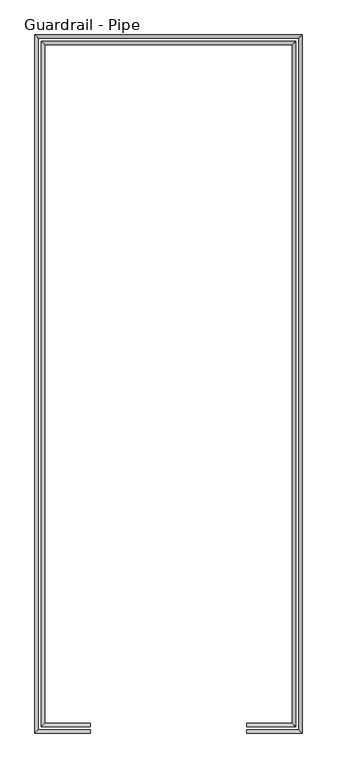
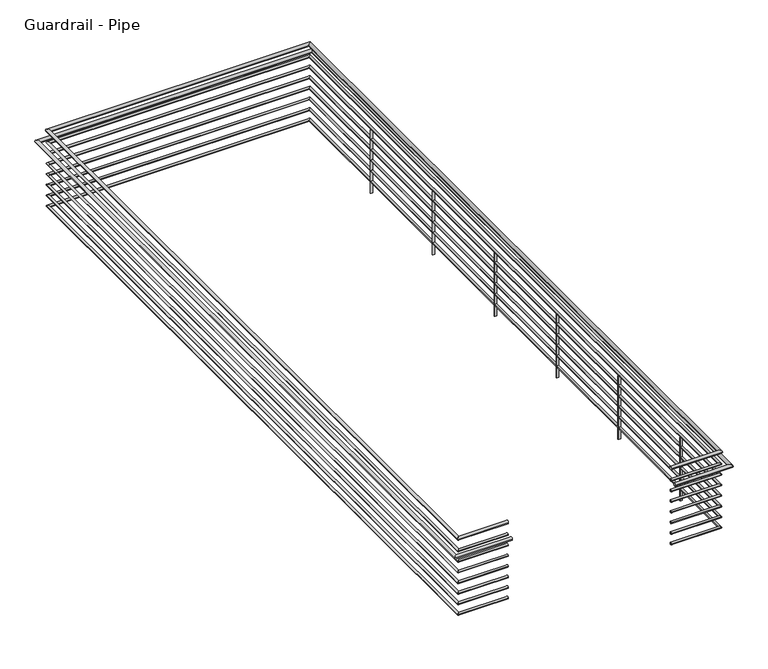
"""IFC4 building model written with IfcOpenShell, lengths in millimetres: railing geometry, Guardrail - Pipe."""

from ifc_helpers import new_model, si_unit, frame, origin, place, context, project, spatial, circle_curve, ellipse_curve, source, transform, mapped, element, save
from ifc_brep_helpers import plane_surface, cylinder_surface, advanced_brep


def guardrail_pipe_cbd437d9(model_context):
    return source(origin(), model_context, "Body", "AdvancedBrep", [
        advanced_brep(
        [(11534.3313551, 21840.75, 8362.95), (11534.3313551, 21878.85, 8362.95), (10956.4813551, 21840.75, 8362.95), (10994.5813551, 21878.85, 8362.95), (10956.4813551, 29956.05, 8362.95), (10994.5813551, 29917.95, 8362.95), (13967.1813551, 29956.05, 8362.95), (13929.0813551, 29917.95, 8362.95), (13967.1813551, 21840.75, 8362.95), (13929.0813551, 21878.85, 8362.95), (13389.3313551, 21840.75, 8362.95), (13389.3313551, 21878.85, 8362.95)],
        [
            (0, 1, circle_curve(frame((11534.3313551, 21859.8, 8362.95), z_axis=(1.0, 0.0, 0.0), x_axis=(0.0, 1.0, 0.0)), 19.05)),
            (1, 0, circle_curve(frame((11534.3313551, 21859.8, 8362.95), z_axis=(1.0, 0.0, 0.0), x_axis=(0.0, 1.0, 0.0)), 19.05)),
            (0, 2),
            (2, 3, ellipse_curve(frame((10975.5313551, 21859.8, 8362.95), z_axis=(0.7071067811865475, -0.7071067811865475, 0.0), x_axis=(0.7071067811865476, 0.7071067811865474, 0.0)), 26.9407684, 19.05)),
            (3, 1),
            (3, 2, ellipse_curve(frame((10975.5313551, 21859.8, 8362.95), z_axis=(0.7071067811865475, -0.7071067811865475, 0.0), x_axis=(0.7071067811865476, 0.7071067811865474, 0.0)), 26.9407684, 19.05)),
            (2, 4),
            (4, 5, ellipse_curve(frame((10975.5313551, 29937.0, 8362.95), z_axis=(-0.7071067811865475, -0.7071067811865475, 0.0), x_axis=(0.7071067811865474, -0.7071067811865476, 0.0)), 26.9407684, 19.05)),
            (5, 3),
            (5, 4, ellipse_curve(frame((10975.5313551, 29937.0, 8362.95), z_axis=(-0.7071067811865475, -0.7071067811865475, 0.0), x_axis=(0.7071067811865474, -0.7071067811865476, 0.0)), 26.9407684, 19.05)),
            (4, 6),
            (6, 7, ellipse_curve(frame((13948.1313551, 29937.0, 8362.95), z_axis=(-0.7071067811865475, 0.7071067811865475, 0.0), x_axis=(-0.7071067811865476, -0.7071067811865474, 0.0)), 26.9407684, 19.05)),
            (7, 5),
            (7, 6, ellipse_curve(frame((13948.1313551, 29937.0, 8362.95), z_axis=(-0.7071067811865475, 0.7071067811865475, 0.0), x_axis=(-0.7071067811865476, -0.7071067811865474, 0.0)), 26.9407684, 19.05)),
            (6, 8),
            (8, 9, ellipse_curve(frame((13948.1313551, 21859.8, 8362.95), z_axis=(0.7071067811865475, 0.7071067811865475, 0.0), x_axis=(-0.7071067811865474, 0.7071067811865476, 0.0)), 26.9407684, 19.05)),
            (9, 7),
            (9, 8, ellipse_curve(frame((13948.1313551, 21859.8, 8362.95), z_axis=(0.7071067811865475, 0.7071067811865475, 0.0), x_axis=(-0.7071067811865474, 0.7071067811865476, 0.0)), 26.9407684, 19.05)),
            (10, 11, circle_curve(frame((13389.3313551, 21859.8, 8362.95), z_axis=(-1.0, 0.0, 0.0), x_axis=(0.0, 1.0, 0.0)), 19.05)),
            (11, 10, circle_curve(frame((13389.3313551, 21859.8, 8362.95), z_axis=(-1.0, 0.0, 0.0), x_axis=(0.0, 1.0, 0.0)), 19.05)),
            (8, 10),
            (11, 9),
        ],
        [
            plane_surface(frame((11534.3313551, 21859.8, 8382.0), z_axis=(1.0, 0.0, 0.0), x_axis=(0.0, -1.0, 0.0))),
            cylinder_surface(frame((11534.3313551, 21859.8, 8362.95), z_axis=(1.0, 0.0, 0.0), x_axis=(0.0, 1.0, 0.0)), 19.05),
            cylinder_surface(frame((10975.5313551, 21859.8, 8362.95), z_axis=(0.0, -1.0, 0.0), x_axis=(1.0, 0.0, 0.0)), 19.05),
            cylinder_surface(frame((10975.5313551, 29937.0, 8362.95), z_axis=(-1.0, 0.0, 0.0), x_axis=(0.0, -1.0, 0.0)), 19.05),
            cylinder_surface(frame((13948.1313551, 29937.0, 8362.95), z_axis=(0.0, 1.0, 0.0), x_axis=(-1.0, 0.0, 0.0)), 19.05),
            plane_surface(frame((13389.3313551, 21859.8, 8382.0), z_axis=(-1.0, 0.0, 0.0), x_axis=(0.0, -1.0, 0.0))),
            cylinder_surface(frame((13948.1313551, 21859.8, 8362.95), z_axis=(1.0, 0.0, 0.0), x_axis=(0.0, 1.0, 0.0)), 19.05),
        ],
        [
            (0, [[1, 2]]),
            (1, [[-1, 3, 4, 5]]),
            (1, [[-2, -5, 6, -3]]),
            (2, [[-4, 7, 8, 9]]),
            (2, [[-6, -9, 10, -7]]),
            (3, [[-8, 11, 12, 13]]),
            (3, [[-10, -13, 14, -11]]),
            (4, [[-12, 15, 16, 17]]),
            (4, [[-14, -17, 18, -15]]),
            (5, [[19, 20]]),
            (6, [[-16, 21, -20, 22]]),
            (6, [[-18, -22, -19, -21]]),
        ],
    ),
        advanced_brep(
        [(11534.3313551, 21847.1, 8216.9), (11534.3313551, 21872.5, 8216.9), (10962.8313551, 21847.1, 8216.9), (10988.2313551, 21872.5, 8216.9), (10962.8313551, 29949.7, 8216.9), (10988.2313551, 29924.3, 8216.9), (13960.8313551, 29949.7, 8216.9), (13935.4313551, 29924.3, 8216.9), (13960.8313551, 21847.1, 8216.9), (13935.4313551, 21872.5, 8216.9), (13389.3313551, 21847.1, 8216.9), (13389.3313551, 21872.5, 8216.9)],
        [
            (0, 1, circle_curve(frame((11534.3313551, 21859.8, 8216.9), z_axis=(1.0, 0.0, 0.0), x_axis=(0.0, 1.0, 0.0)), 12.7)),
            (1, 0, circle_curve(frame((11534.3313551, 21859.8, 8216.9), z_axis=(1.0, 0.0, 0.0), x_axis=(0.0, 1.0, 0.0)), 12.7)),
            (0, 2),
            (2, 3, ellipse_curve(frame((10975.5313551, 21859.8, 8216.9), z_axis=(0.7071067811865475, -0.7071067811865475, 0.0), x_axis=(0.7071067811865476, 0.7071067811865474, 0.0)), 17.9605122, 12.7)),
            (3, 1),
            (3, 2, ellipse_curve(frame((10975.5313551, 21859.8, 8216.9), z_axis=(0.7071067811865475, -0.7071067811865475, 0.0), x_axis=(0.7071067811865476, 0.7071067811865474, 0.0)), 17.9605122, 12.7)),
            (2, 4),
            (4, 5, ellipse_curve(frame((10975.5313551, 29937.0, 8216.9), z_axis=(-0.7071067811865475, -0.7071067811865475, 0.0), x_axis=(0.7071067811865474, -0.7071067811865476, 0.0)), 17.9605122, 12.7)),
            (5, 3),
            (5, 4, ellipse_curve(frame((10975.5313551, 29937.0, 8216.9), z_axis=(-0.7071067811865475, -0.7071067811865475, 0.0), x_axis=(0.7071067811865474, -0.7071067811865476, 0.0)), 17.9605122, 12.7)),
            (4, 6),
            (6, 7, ellipse_curve(frame((13948.1313551, 29937.0, 8216.9), z_axis=(-0.7071067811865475, 0.7071067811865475, 0.0), x_axis=(-0.7071067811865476, -0.7071067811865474, 0.0)), 17.9605122, 12.7)),
            (7, 5),
            (7, 6, ellipse_curve(frame((13948.1313551, 29937.0, 8216.9), z_axis=(-0.7071067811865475, 0.7071067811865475, 0.0), x_axis=(-0.7071067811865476, -0.7071067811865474, 0.0)), 17.9605122, 12.7)),
            (6, 8),
            (8, 9, ellipse_curve(frame((13948.1313551, 21859.8, 8216.9), z_axis=(0.7071067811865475, 0.7071067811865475, 0.0), x_axis=(-0.7071067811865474, 0.7071067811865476, 0.0)), 17.9605122, 12.7)),
            (9, 7),
            (9, 8, ellipse_curve(frame((13948.1313551, 21859.8, 8216.9), z_axis=(0.7071067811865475, 0.7071067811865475, 0.0), x_axis=(-0.7071067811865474, 0.7071067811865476, 0.0)), 17.9605122, 12.7)),
            (10, 11, circle_curve(frame((13389.3313551, 21859.8, 8216.9), z_axis=(-1.0, 0.0, 0.0), x_axis=(0.0, 1.0, 0.0)), 12.7)),
            (11, 10, circle_curve(frame((13389.3313551, 21859.8, 8216.9), z_axis=(-1.0, 0.0, 0.0), x_axis=(0.0, 1.0, 0.0)), 12.7)),
            (8, 10),
            (11, 9),
        ],
        [
            plane_surface(frame((11534.3313551, 21859.8, 8229.6), z_axis=(1.0, 0.0, 0.0), x_axis=(0.0, -1.0, 0.0))),
            cylinder_surface(frame((11534.3313551, 21859.8, 8216.9), z_axis=(1.0, 0.0, 0.0), x_axis=(0.0, 1.0, 0.0)), 12.7),
            cylinder_surface(frame((10975.5313551, 21859.8, 8216.9), z_axis=(0.0, -1.0, 0.0), x_axis=(1.0, 0.0, 0.0)), 12.7),
            cylinder_surface(frame((10975.5313551, 29937.0, 8216.9), z_axis=(-1.0, 0.0, 0.0), x_axis=(0.0, -1.0, 0.0)), 12.7),
            cylinder_surface(frame((13948.1313551, 29937.0, 8216.9), z_axis=(0.0, 1.0, 0.0), x_axis=(-1.0, 0.0, 0.0)), 12.7),
            plane_surface(frame((13389.3313551, 21859.8, 8229.6), z_axis=(-1.0, 0.0, 0.0), x_axis=(0.0, -1.0, 0.0))),
            cylinder_surface(frame((13948.1313551, 21859.8, 8216.9), z_axis=(1.0, 0.0, 0.0), x_axis=(0.0, 1.0, 0.0)), 12.7),
        ],
        [
            (0, [[1, 2]]),
            (1, [[-1, 3, 4, 5]]),
            (1, [[-2, -5, 6, -3]]),
            (2, [[-4, 7, 8, 9]]),
            (2, [[-6, -9, 10, -7]]),
            (3, [[-8, 11, 12, 13]]),
            (3, [[-10, -13, 14, -11]]),
            (4, [[-12, 15, 16, 17]]),
            (4, [[-14, -17, 18, -15]]),
            (5, [[19, 20]]),
            (6, [[-16, 21, -20, 22]]),
            (6, [[-18, -22, -19, -21]]),
        ],
    ),
        advanced_brep(
        [(11534.3313551, 21764.55, 8210.55), (11534.3313551, 21802.65, 8210.55), (10880.2813551, 21764.55, 8210.55), (10918.3813551, 21802.65, 8210.55), (10880.2813551, 30032.25, 8210.55), (10918.3813551, 29994.15, 8210.55), (14043.3813551, 30032.25, 8210.55), (14005.2813551, 29994.15, 8210.55), (14043.3813551, 21764.55, 8210.55), (14005.2813551, 21802.65, 8210.55), (13389.3313551, 21764.55, 8210.55), (13389.3313551, 21802.65, 8210.55)],
        [
            (0, 1, circle_curve(frame((11534.3313551, 21783.6, 8210.55), z_axis=(1.0, 0.0, 0.0), x_axis=(0.0, 1.0, 0.0)), 19.05)),
            (1, 0, circle_curve(frame((11534.3313551, 21783.6, 8210.55), z_axis=(1.0, 0.0, 0.0), x_axis=(0.0, 1.0, 0.0)), 19.05)),
            (0, 2),
            (2, 3, ellipse_curve(frame((10899.3313551, 21783.6, 8210.55), z_axis=(0.7071067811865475, -0.7071067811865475, 0.0), x_axis=(0.7071067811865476, 0.7071067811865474, 0.0)), 26.9407684, 19.05)),
            (3, 1),
            (3, 2, ellipse_curve(frame((10899.3313551, 21783.6, 8210.55), z_axis=(0.7071067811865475, -0.7071067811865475, 0.0), x_axis=(0.7071067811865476, 0.7071067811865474, 0.0)), 26.9407684, 19.05)),
            (2, 4),
            (4, 5, ellipse_curve(frame((10899.3313551, 30013.2, 8210.55), z_axis=(-0.7071067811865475, -0.7071067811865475, 0.0), x_axis=(0.7071067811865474, -0.7071067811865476, 0.0)), 26.9407684, 19.05)),
            (5, 3),
            (5, 4, ellipse_curve(frame((10899.3313551, 30013.2, 8210.55), z_axis=(-0.7071067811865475, -0.7071067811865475, 0.0), x_axis=(0.7071067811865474, -0.7071067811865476, 0.0)), 26.9407684, 19.05)),
            (4, 6),
            (6, 7, ellipse_curve(frame((14024.3313551, 30013.2, 8210.55), z_axis=(-0.7071067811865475, 0.7071067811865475, 0.0), x_axis=(-0.7071067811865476, -0.7071067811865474, 0.0)), 26.9407684, 19.05)),
            (7, 5),
            (7, 6, ellipse_curve(frame((14024.3313551, 30013.2, 8210.55), z_axis=(-0.7071067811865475, 0.7071067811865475, 0.0), x_axis=(-0.7071067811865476, -0.7071067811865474, 0.0)), 26.9407684, 19.05)),
            (6, 8),
            (8, 9, ellipse_curve(frame((14024.3313551, 21783.6, 8210.55), z_axis=(0.7071067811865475, 0.7071067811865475, 0.0), x_axis=(-0.7071067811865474, 0.7071067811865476, 0.0)), 26.9407684, 19.05)),
            (9, 7),
            (9, 8, ellipse_curve(frame((14024.3313551, 21783.6, 8210.55), z_axis=(0.7071067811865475, 0.7071067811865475, 0.0), x_axis=(-0.7071067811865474, 0.7071067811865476, 0.0)), 26.9407684, 19.05)),
            (10, 11, circle_curve(frame((13389.3313551, 21783.6, 8210.55), z_axis=(-1.0, 0.0, 0.0), x_axis=(0.0, 1.0, 0.0)), 19.05)),
            (11, 10, circle_curve(frame((13389.3313551, 21783.6, 8210.55), z_axis=(-1.0, 0.0, 0.0), x_axis=(0.0, 1.0, 0.0)), 19.05)),
            (8, 10),
            (11, 9),
        ],
        [
            plane_surface(frame((11534.3313551, 21783.6, 8229.6), z_axis=(1.0, 0.0, 0.0), x_axis=(0.0, -1.0, 0.0))),
            cylinder_surface(frame((11534.3313551, 21783.6, 8210.55), z_axis=(1.0, 0.0, 0.0), x_axis=(0.0, 1.0, 0.0)), 19.05),
            cylinder_surface(frame((10899.3313551, 21783.6, 8210.55), z_axis=(0.0, -1.0, 0.0), x_axis=(1.0, 0.0, 0.0)), 19.05),
            cylinder_surface(frame((10899.3313551, 30013.2, 8210.55), z_axis=(-1.0, 0.0, 0.0), x_axis=(0.0, -1.0, 0.0)), 19.05),
            cylinder_surface(frame((14024.3313551, 30013.2, 8210.55), z_axis=(0.0, 1.0, 0.0), x_axis=(-1.0, 0.0, 0.0)), 19.05),
            plane_surface(frame((13389.3313551, 21783.6, 8229.6), z_axis=(-1.0, 0.0, 0.0), x_axis=(0.0, -1.0, 0.0))),
            cylinder_surface(frame((14024.3313551, 21783.6, 8210.55), z_axis=(1.0, 0.0, 0.0), x_axis=(0.0, 1.0, 0.0)), 19.05),
        ],
        [
            (0, [[1, 2]]),
            (1, [[-1, 3, 4, 5]]),
            (1, [[-2, -5, 6, -3]]),
            (2, [[-4, 7, 8, 9]]),
            (2, [[-6, -9, 10, -7]]),
            (3, [[-8, 11, 12, 13]]),
            (3, [[-10, -13, 14, -11]]),
            (4, [[-12, 15, 16, 17]]),
            (4, [[-14, -17, 18, -15]]),
            (5, [[19, 20]]),
            (6, [[-16, 21, -20, 22]]),
            (6, [[-18, -22, -19, -21]]),
        ],
    ),
        advanced_brep(
        [(11534.3313551, 21847.1, 8089.9), (11534.3313551, 21872.5, 8089.9), (10962.8313551, 21847.1, 8089.9), (10988.2313551, 21872.5, 8089.9), (10962.8313551, 29949.7, 8089.9), (10988.2313551, 29924.3, 8089.9), (13960.8313551, 29949.7, 8089.9), (13935.4313551, 29924.3, 8089.9), (13960.8313551, 21847.1, 8089.9), (13935.4313551, 21872.5, 8089.9), (13389.3313551, 21847.1, 8089.9), (13389.3313551, 21872.5, 8089.9)],
        [
            (0, 1, circle_curve(frame((11534.3313551, 21859.8, 8089.9), z_axis=(1.0, 0.0, 0.0), x_axis=(0.0, 1.0, 0.0)), 12.7)),
            (1, 0, circle_curve(frame((11534.3313551, 21859.8, 8089.9), z_axis=(1.0, 0.0, 0.0), x_axis=(0.0, 1.0, 0.0)), 12.7)),
            (0, 2),
            (2, 3, ellipse_curve(frame((10975.5313551, 21859.8, 8089.9), z_axis=(0.7071067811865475, -0.7071067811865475, 0.0), x_axis=(0.7071067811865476, 0.7071067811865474, 0.0)), 17.9605122, 12.7)),
            (3, 1),
            (3, 2, ellipse_curve(frame((10975.5313551, 21859.8, 8089.9), z_axis=(0.7071067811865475, -0.7071067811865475, 0.0), x_axis=(0.7071067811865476, 0.7071067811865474, 0.0)), 17.9605122, 12.7)),
            (2, 4),
            (4, 5, ellipse_curve(frame((10975.5313551, 29937.0, 8089.9), z_axis=(-0.7071067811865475, -0.7071067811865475, 0.0), x_axis=(0.7071067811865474, -0.7071067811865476, 0.0)), 17.9605122, 12.7)),
            (5, 3),
            (5, 4, ellipse_curve(frame((10975.5313551, 29937.0, 8089.9), z_axis=(-0.7071067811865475, -0.7071067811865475, 0.0), x_axis=(0.7071067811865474, -0.7071067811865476, 0.0)), 17.9605122, 12.7)),
            (4, 6),
            (6, 7, ellipse_curve(frame((13948.1313551, 29937.0, 8089.9), z_axis=(-0.7071067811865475, 0.7071067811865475, 0.0), x_axis=(-0.7071067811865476, -0.7071067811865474, 0.0)), 17.9605122, 12.7)),
            (7, 5),
            (7, 6, ellipse_curve(frame((13948.1313551, 29937.0, 8089.9), z_axis=(-0.7071067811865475, 0.7071067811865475, 0.0), x_axis=(-0.7071067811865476, -0.7071067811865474, 0.0)), 17.9605122, 12.7)),
            (6, 8),
            (8, 9, ellipse_curve(frame((13948.1313551, 21859.8, 8089.9), z_axis=(0.7071067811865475, 0.7071067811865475, 0.0), x_axis=(-0.7071067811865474, 0.7071067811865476, 0.0)), 17.9605122, 12.7)),
            (9, 7),
            (9, 8, ellipse_curve(frame((13948.1313551, 21859.8, 8089.9), z_axis=(0.7071067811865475, 0.7071067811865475, 0.0), x_axis=(-0.7071067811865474, 0.7071067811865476, 0.0)), 17.9605122, 12.7)),
            (10, 11, circle_curve(frame((13389.3313551, 21859.8, 8089.9), z_axis=(-1.0, 0.0, 0.0), x_axis=(0.0, 1.0, 0.0)), 12.7)),
            (11, 10, circle_curve(frame((13389.3313551, 21859.8, 8089.9), z_axis=(-1.0, 0.0, 0.0), x_axis=(0.0, 1.0, 0.0)), 12.7)),
            (8, 10),
            (11, 9),
        ],
        [
            plane_surface(frame((11534.3313551, 21859.8, 8102.6), z_axis=(1.0, 0.0, 0.0), x_axis=(0.0, -1.0, 0.0))),
            cylinder_surface(frame((11534.3313551, 21859.8, 8089.9), z_axis=(1.0, 0.0, 0.0), x_axis=(0.0, 1.0, 0.0)), 12.7),
            cylinder_surface(frame((10975.5313551, 21859.8, 8089.9), z_axis=(0.0, -1.0, 0.0), x_axis=(1.0, 0.0, 0.0)), 12.7),
            cylinder_surface(frame((10975.5313551, 29937.0, 8089.9), z_axis=(-1.0, 0.0, 0.0), x_axis=(0.0, -1.0, 0.0)), 12.7),
            cylinder_surface(frame((13948.1313551, 29937.0, 8089.9), z_axis=(0.0, 1.0, 0.0), x_axis=(-1.0, 0.0, 0.0)), 12.7),
            plane_surface(frame((13389.3313551, 21859.8, 8102.6), z_axis=(-1.0, 0.0, 0.0), x_axis=(0.0, -1.0, 0.0))),
            cylinder_surface(frame((13948.1313551, 21859.8, 8089.9), z_axis=(1.0, 0.0, 0.0), x_axis=(0.0, 1.0, 0.0)), 12.7),
        ],
        [
            (0, [[1, 2]]),
            (1, [[-1, 3, 4, 5]]),
            (1, [[-2, -5, 6, -3]]),
            (2, [[-4, 7, 8, 9]]),
            (2, [[-6, -9, 10, -7]]),
            (3, [[-8, 11, 12, 13]]),
            (3, [[-10, -13, 14, -11]]),
            (4, [[-12, 15, 16, 17]]),
            (4, [[-14, -17, 18, -15]]),
            (5, [[19, 20]]),
            (6, [[-16, 21, -20, 22]]),
            (6, [[-18, -22, -19, -21]]),
        ],
    ),
        advanced_brep(
        [(11534.3313551, 21847.1, 7962.9), (11534.3313551, 21872.5, 7962.9), (10962.8313551, 21847.1, 7962.9), (10988.2313551, 21872.5, 7962.9), (10962.8313551, 29949.7, 7962.9), (10988.2313551, 29924.3, 7962.9), (13960.8313551, 29949.7, 7962.9), (13935.4313551, 29924.3, 7962.9), (13960.8313551, 21847.1, 7962.9), (13935.4313551, 21872.5, 7962.9), (13389.3313551, 21847.1, 7962.9), (13389.3313551, 21872.5, 7962.9)],
        [
            (0, 1, circle_curve(frame((11534.3313551, 21859.8, 7962.9), z_axis=(1.0, 0.0, 0.0), x_axis=(0.0, 1.0, 0.0)), 12.7)),
            (1, 0, circle_curve(frame((11534.3313551, 21859.8, 7962.9), z_axis=(1.0, 0.0, 0.0), x_axis=(0.0, 1.0, 0.0)), 12.7)),
            (0, 2),
            (2, 3, ellipse_curve(frame((10975.5313551, 21859.8, 7962.9), z_axis=(0.7071067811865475, -0.7071067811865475, 0.0), x_axis=(0.7071067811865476, 0.7071067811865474, 0.0)), 17.9605122, 12.7)),
            (3, 1),
            (3, 2, ellipse_curve(frame((10975.5313551, 21859.8, 7962.9), z_axis=(0.7071067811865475, -0.7071067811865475, 0.0), x_axis=(0.7071067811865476, 0.7071067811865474, 0.0)), 17.9605122, 12.7)),
            (2, 4),
            (4, 5, ellipse_curve(frame((10975.5313551, 29937.0, 7962.9), z_axis=(-0.7071067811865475, -0.7071067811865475, 0.0), x_axis=(0.7071067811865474, -0.7071067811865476, 0.0)), 17.9605122, 12.7)),
            (5, 3),
            (5, 4, ellipse_curve(frame((10975.5313551, 29937.0, 7962.9), z_axis=(-0.7071067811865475, -0.7071067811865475, 0.0), x_axis=(0.7071067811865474, -0.7071067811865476, 0.0)), 17.9605122, 12.7)),
            (4, 6),
            (6, 7, ellipse_curve(frame((13948.1313551, 29937.0, 7962.9), z_axis=(-0.7071067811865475, 0.7071067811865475, 0.0), x_axis=(-0.7071067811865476, -0.7071067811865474, 0.0)), 17.9605122, 12.7)),
            (7, 5),
            (7, 6, ellipse_curve(frame((13948.1313551, 29937.0, 7962.9), z_axis=(-0.7071067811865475, 0.7071067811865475, 0.0), x_axis=(-0.7071067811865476, -0.7071067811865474, 0.0)), 17.9605122, 12.7)),
            (6, 8),
            (8, 9, ellipse_curve(frame((13948.1313551, 21859.8, 7962.9), z_axis=(0.7071067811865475, 0.7071067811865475, 0.0), x_axis=(-0.7071067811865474, 0.7071067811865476, 0.0)), 17.9605122, 12.7)),
            (9, 7),
            (9, 8, ellipse_curve(frame((13948.1313551, 21859.8, 7962.9), z_axis=(0.7071067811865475, 0.7071067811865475, 0.0), x_axis=(-0.7071067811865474, 0.7071067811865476, 0.0)), 17.9605122, 12.7)),
            (10, 11, circle_curve(frame((13389.3313551, 21859.8, 7962.9), z_axis=(-1.0, 0.0, 0.0), x_axis=(0.0, 1.0, 0.0)), 12.7)),
            (11, 10, circle_curve(frame((13389.3313551, 21859.8, 7962.9), z_axis=(-1.0, 0.0, 0.0), x_axis=(0.0, 1.0, 0.0)), 12.7)),
            (8, 10),
            (11, 9),
        ],
        [
            plane_surface(frame((11534.3313551, 21859.8, 7975.6), z_axis=(1.0, 0.0, 0.0), x_axis=(0.0, -1.0, 0.0))),
            cylinder_surface(frame((11534.3313551, 21859.8, 7962.9), z_axis=(1.0, 0.0, 0.0), x_axis=(0.0, 1.0, 0.0)), 12.7),
            cylinder_surface(frame((10975.5313551, 21859.8, 7962.9), z_axis=(0.0, -1.0, 0.0), x_axis=(1.0, 0.0, 0.0)), 12.7),
            cylinder_surface(frame((10975.5313551, 29937.0, 7962.9), z_axis=(-1.0, 0.0, 0.0), x_axis=(0.0, -1.0, 0.0)), 12.7),
            cylinder_surface(frame((13948.1313551, 29937.0, 7962.9), z_axis=(0.0, 1.0, 0.0), x_axis=(-1.0, 0.0, 0.0)), 12.7),
            plane_surface(frame((13389.3313551, 21859.8, 7975.6), z_axis=(-1.0, 0.0, 0.0), x_axis=(0.0, -1.0, 0.0))),
            cylinder_surface(frame((13948.1313551, 21859.8, 7962.9), z_axis=(1.0, 0.0, 0.0), x_axis=(0.0, 1.0, 0.0)), 12.7),
        ],
        [
            (0, [[1, 2]]),
            (1, [[-1, 3, 4, 5]]),
            (1, [[-2, -5, 6, -3]]),
            (2, [[-4, 7, 8, 9]]),
            (2, [[-6, -9, 10, -7]]),
            (3, [[-8, 11, 12, 13]]),
            (3, [[-10, -13, 14, -11]]),
            (4, [[-12, 15, 16, 17]]),
            (4, [[-14, -17, 18, -15]]),
            (5, [[19, 20]]),
            (6, [[-16, 21, -20, 22]]),
            (6, [[-18, -22, -19, -21]]),
        ],
    ),
        advanced_brep(
        [(11534.3313551, 21847.1, 7835.9), (11534.3313551, 21872.5, 7835.9), (10962.8313551, 21847.1, 7835.9), (10988.2313551, 21872.5, 7835.9), (10962.8313551, 29949.7, 7835.9), (10988.2313551, 29924.3, 7835.9), (13960.8313551, 29949.7, 7835.9), (13935.4313551, 29924.3, 7835.9), (13960.8313551, 21847.1, 7835.9), (13935.4313551, 21872.5, 7835.9), (13389.3313551, 21847.1, 7835.9), (13389.3313551, 21872.5, 7835.9)],
        [
            (0, 1, circle_curve(frame((11534.3313551, 21859.8, 7835.9), z_axis=(1.0, 0.0, 0.0), x_axis=(0.0, 1.0, 0.0)), 12.7)),
            (1, 0, circle_curve(frame((11534.3313551, 21859.8, 7835.9), z_axis=(1.0, 0.0, 0.0), x_axis=(0.0, 1.0, 0.0)), 12.7)),
            (0, 2),
            (2, 3, ellipse_curve(frame((10975.5313551, 21859.8, 7835.9), z_axis=(0.7071067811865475, -0.7071067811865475, 0.0), x_axis=(0.7071067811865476, 0.7071067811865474, 0.0)), 17.9605122, 12.7)),
            (3, 1),
            (3, 2, ellipse_curve(frame((10975.5313551, 21859.8, 7835.9), z_axis=(0.7071067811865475, -0.7071067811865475, 0.0), x_axis=(0.7071067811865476, 0.7071067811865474, 0.0)), 17.9605122, 12.7)),
            (2, 4),
            (4, 5, ellipse_curve(frame((10975.5313551, 29937.0, 7835.9), z_axis=(-0.7071067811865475, -0.7071067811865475, 0.0), x_axis=(0.7071067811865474, -0.7071067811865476, 0.0)), 17.9605122, 12.7)),
            (5, 3),
            (5, 4, ellipse_curve(frame((10975.5313551, 29937.0, 7835.9), z_axis=(-0.7071067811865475, -0.7071067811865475, 0.0), x_axis=(0.7071067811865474, -0.7071067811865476, 0.0)), 17.9605122, 12.7)),
            (4, 6),
            (6, 7, ellipse_curve(frame((13948.1313551, 29937.0, 7835.9), z_axis=(-0.7071067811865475, 0.7071067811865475, 0.0), x_axis=(-0.7071067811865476, -0.7071067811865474, 0.0)), 17.9605122, 12.7)),
            (7, 5),
            (7, 6, ellipse_curve(frame((13948.1313551, 29937.0, 7835.9), z_axis=(-0.7071067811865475, 0.7071067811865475, 0.0), x_axis=(-0.7071067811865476, -0.7071067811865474, 0.0)), 17.9605122, 12.7)),
            (6, 8),
            (8, 9, ellipse_curve(frame((13948.1313551, 21859.8, 7835.9), z_axis=(0.7071067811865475, 0.7071067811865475, 0.0), x_axis=(-0.7071067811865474, 0.7071067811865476, 0.0)), 17.9605122, 12.7)),
            (9, 7),
            (9, 8, ellipse_curve(frame((13948.1313551, 21859.8, 7835.9), z_axis=(0.7071067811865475, 0.7071067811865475, 0.0), x_axis=(-0.7071067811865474, 0.7071067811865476, 0.0)), 17.9605122, 12.7)),
            (10, 11, circle_curve(frame((13389.3313551, 21859.8, 7835.9), z_axis=(-1.0, 0.0, 0.0), x_axis=(0.0, 1.0, 0.0)), 12.7)),
            (11, 10, circle_curve(frame((13389.3313551, 21859.8, 7835.9), z_axis=(-1.0, 0.0, 0.0), x_axis=(0.0, 1.0, 0.0)), 12.7)),
            (8, 10),
            (11, 9),
        ],
        [
            plane_surface(frame((11534.3313551, 21859.8, 7848.6), z_axis=(1.0, 0.0, 0.0), x_axis=(0.0, -1.0, 0.0))),
            cylinder_surface(frame((11534.3313551, 21859.8, 7835.9), z_axis=(1.0, 0.0, 0.0), x_axis=(0.0, 1.0, 0.0)), 12.7),
            cylinder_surface(frame((10975.5313551, 21859.8, 7835.9), z_axis=(0.0, -1.0, 0.0), x_axis=(1.0, 0.0, 0.0)), 12.7),
            cylinder_surface(frame((10975.5313551, 29937.0, 7835.9), z_axis=(-1.0, 0.0, 0.0), x_axis=(0.0, -1.0, 0.0)), 12.7),
            cylinder_surface(frame((13948.1313551, 29937.0, 7835.9), z_axis=(0.0, 1.0, 0.0), x_axis=(-1.0, 0.0, 0.0)), 12.7),
            plane_surface(frame((13389.3313551, 21859.8, 7848.6), z_axis=(-1.0, 0.0, 0.0), x_axis=(0.0, -1.0, 0.0))),
            cylinder_surface(frame((13948.1313551, 21859.8, 7835.9), z_axis=(1.0, 0.0, 0.0), x_axis=(0.0, 1.0, 0.0)), 12.7),
        ],
        [
            (0, [[1, 2]]),
            (1, [[-1, 3, 4, 5]]),
            (1, [[-2, -5, 6, -3]]),
            (2, [[-4, 7, 8, 9]]),
            (2, [[-6, -9, 10, -7]]),
            (3, [[-8, 11, 12, 13]]),
            (3, [[-10, -13, 14, -11]]),
            (4, [[-12, 15, 16, 17]]),
            (4, [[-14, -17, 18, -15]]),
            (5, [[19, 20]]),
            (6, [[-16, 21, -20, 22]]),
            (6, [[-18, -22, -19, -21]]),
        ],
    ),
        advanced_brep(
        [(11534.3313551, 21847.1, 7708.9), (11534.3313551, 21872.5, 7708.9), (10962.8313551, 21847.1, 7708.9), (10988.2313551, 21872.5, 7708.9), (10962.8313551, 29949.7, 7708.9), (10988.2313551, 29924.3, 7708.9), (13960.8313551, 29949.7, 7708.9), (13935.4313551, 29924.3, 7708.9), (13960.8313551, 21847.1, 7708.9), (13935.4313551, 21872.5, 7708.9), (13389.3313551, 21847.1, 7708.9), (13389.3313551, 21872.5, 7708.9)],
        [
            (0, 1, circle_curve(frame((11534.3313551, 21859.8, 7708.9), z_axis=(1.0, 0.0, 0.0), x_axis=(0.0, 1.0, 0.0)), 12.7)),
            (1, 0, circle_curve(frame((11534.3313551, 21859.8, 7708.9), z_axis=(1.0, 0.0, 0.0), x_axis=(0.0, 1.0, 0.0)), 12.7)),
            (0, 2),
            (2, 3, ellipse_curve(frame((10975.5313551, 21859.8, 7708.9), z_axis=(0.7071067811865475, -0.7071067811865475, 0.0), x_axis=(0.7071067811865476, 0.7071067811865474, 0.0)), 17.9605122, 12.7)),
            (3, 1),
            (3, 2, ellipse_curve(frame((10975.5313551, 21859.8, 7708.9), z_axis=(0.7071067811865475, -0.7071067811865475, 0.0), x_axis=(0.7071067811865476, 0.7071067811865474, 0.0)), 17.9605122, 12.7)),
            (2, 4),
            (4, 5, ellipse_curve(frame((10975.5313551, 29937.0, 7708.9), z_axis=(-0.7071067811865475, -0.7071067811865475, 0.0), x_axis=(0.7071067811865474, -0.7071067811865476, 0.0)), 17.9605122, 12.7)),
            (5, 3),
            (5, 4, ellipse_curve(frame((10975.5313551, 29937.0, 7708.9), z_axis=(-0.7071067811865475, -0.7071067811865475, 0.0), x_axis=(0.7071067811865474, -0.7071067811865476, 0.0)), 17.9605122, 12.7)),
            (4, 6),
            (6, 7, ellipse_curve(frame((13948.1313551, 29937.0, 7708.9), z_axis=(-0.7071067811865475, 0.7071067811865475, 0.0), x_axis=(-0.7071067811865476, -0.7071067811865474, 0.0)), 17.9605122, 12.7)),
            (7, 5),
            (7, 6, ellipse_curve(frame((13948.1313551, 29937.0, 7708.9), z_axis=(-0.7071067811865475, 0.7071067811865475, 0.0), x_axis=(-0.7071067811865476, -0.7071067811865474, 0.0)), 17.9605122, 12.7)),
            (6, 8),
            (8, 9, ellipse_curve(frame((13948.1313551, 21859.8, 7708.9), z_axis=(0.7071067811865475, 0.7071067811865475, 0.0), x_axis=(-0.7071067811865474, 0.7071067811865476, 0.0)), 17.9605122, 12.7)),
            (9, 7),
            (9, 8, ellipse_curve(frame((13948.1313551, 21859.8, 7708.9), z_axis=(0.7071067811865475, 0.7071067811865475, 0.0), x_axis=(-0.7071067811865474, 0.7071067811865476, 0.0)), 17.9605122, 12.7)),
            (10, 11, circle_curve(frame((13389.3313551, 21859.8, 7708.9), z_axis=(-1.0, 0.0, 0.0), x_axis=(0.0, 1.0, 0.0)), 12.7)),
            (11, 10, circle_curve(frame((13389.3313551, 21859.8, 7708.9), z_axis=(-1.0, 0.0, 0.0), x_axis=(0.0, 1.0, 0.0)), 12.7)),
            (8, 10),
            (11, 9),
        ],
        [
            plane_surface(frame((11534.3313551, 21859.8, 7721.6), z_axis=(1.0, 0.0, 0.0), x_axis=(0.0, -1.0, 0.0))),
            cylinder_surface(frame((11534.3313551, 21859.8, 7708.9), z_axis=(1.0, 0.0, 0.0), x_axis=(0.0, 1.0, 0.0)), 12.7),
            cylinder_surface(frame((10975.5313551, 21859.8, 7708.9), z_axis=(0.0, -1.0, 0.0), x_axis=(1.0, 0.0, 0.0)), 12.7),
            cylinder_surface(frame((10975.5313551, 29937.0, 7708.9), z_axis=(-1.0, 0.0, 0.0), x_axis=(0.0, -1.0, 0.0)), 12.7),
            cylinder_surface(frame((13948.1313551, 29937.0, 7708.9), z_axis=(0.0, 1.0, 0.0), x_axis=(-1.0, 0.0, 0.0)), 12.7),
            plane_surface(frame((13389.3313551, 21859.8, 7721.6), z_axis=(-1.0, 0.0, 0.0), x_axis=(0.0, -1.0, 0.0))),
            cylinder_surface(frame((13948.1313551, 21859.8, 7708.9), z_axis=(1.0, 0.0, 0.0), x_axis=(0.0, 1.0, 0.0)), 12.7),
        ],
        [
            (0, [[1, 2]]),
            (1, [[-1, 3, 4, 5]]),
            (1, [[-2, -5, 6, -3]]),
            (2, [[-4, 7, 8, 9]]),
            (2, [[-6, -9, 10, -7]]),
            (3, [[-8, 11, 12, 13]]),
            (3, [[-10, -13, 14, -11]]),
            (4, [[-12, 15, 16, 17]]),
            (4, [[-14, -17, 18, -15]]),
            (5, [[19, 20]]),
            (6, [[-16, 21, -20, 22]]),
            (6, [[-18, -22, -19, -21]]),
        ],
    ),
        advanced_brep(
        [(11534.3313551, 21847.1, 7581.9), (11534.3313551, 21872.5, 7581.9), (10962.8313551, 21847.1, 7581.9), (10988.2313551, 21872.5, 7581.9), (10962.8313551, 29949.7, 7581.9), (10988.2313551, 29924.3, 7581.9), (13960.8313551, 29949.7, 7581.9), (13935.4313551, 29924.3, 7581.9), (13960.8313551, 21847.1, 7581.9), (13935.4313551, 21872.5, 7581.9), (13389.3313551, 21847.1, 7581.9), (13389.3313551, 21872.5, 7581.9)],
        [
            (0, 1, circle_curve(frame((11534.3313551, 21859.8, 7581.9), z_axis=(1.0, 0.0, 0.0), x_axis=(0.0, 1.0, 0.0)), 12.7)),
            (1, 0, circle_curve(frame((11534.3313551, 21859.8, 7581.9), z_axis=(1.0, 0.0, 0.0), x_axis=(0.0, 1.0, 0.0)), 12.7)),
            (0, 2),
            (2, 3, ellipse_curve(frame((10975.5313551, 21859.8, 7581.9), z_axis=(0.7071067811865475, -0.7071067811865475, 0.0), x_axis=(0.7071067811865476, 0.7071067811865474, 0.0)), 17.9605122, 12.7)),
            (3, 1),
            (3, 2, ellipse_curve(frame((10975.5313551, 21859.8, 7581.9), z_axis=(0.7071067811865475, -0.7071067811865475, 0.0), x_axis=(0.7071067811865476, 0.7071067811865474, 0.0)), 17.9605122, 12.7)),
            (2, 4),
            (4, 5, ellipse_curve(frame((10975.5313551, 29937.0, 7581.9), z_axis=(-0.7071067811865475, -0.7071067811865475, 0.0), x_axis=(0.7071067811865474, -0.7071067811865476, 0.0)), 17.9605122, 12.7)),
            (5, 3),
            (5, 4, ellipse_curve(frame((10975.5313551, 29937.0, 7581.9), z_axis=(-0.7071067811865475, -0.7071067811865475, 0.0), x_axis=(0.7071067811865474, -0.7071067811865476, 0.0)), 17.9605122, 12.7)),
            (4, 6),
            (6, 7, ellipse_curve(frame((13948.1313551, 29937.0, 7581.9), z_axis=(-0.7071067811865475, 0.7071067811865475, 0.0), x_axis=(-0.7071067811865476, -0.7071067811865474, 0.0)), 17.9605122, 12.7)),
            (7, 5),
            (7, 6, ellipse_curve(frame((13948.1313551, 29937.0, 7581.9), z_axis=(-0.7071067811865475, 0.7071067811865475, 0.0), x_axis=(-0.7071067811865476, -0.7071067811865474, 0.0)), 17.9605122, 12.7)),
            (6, 8),
            (8, 9, ellipse_curve(frame((13948.1313551, 21859.8, 7581.9), z_axis=(0.7071067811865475, 0.7071067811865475, 0.0), x_axis=(-0.7071067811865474, 0.7071067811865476, 0.0)), 17.9605122, 12.7)),
            (9, 7),
            (9, 8, ellipse_curve(frame((13948.1313551, 21859.8, 7581.9), z_axis=(0.7071067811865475, 0.7071067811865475, 0.0), x_axis=(-0.7071067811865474, 0.7071067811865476, 0.0)), 17.9605122, 12.7)),
            (10, 11, circle_curve(frame((13389.3313551, 21859.8, 7581.9), z_axis=(-1.0, 0.0, 0.0), x_axis=(0.0, 1.0, 0.0)), 12.7)),
            (11, 10, circle_curve(frame((13389.3313551, 21859.8, 7581.9), z_axis=(-1.0, 0.0, 0.0), x_axis=(0.0, 1.0, 0.0)), 12.7)),
            (8, 10),
            (11, 9),
        ],
        [
            plane_surface(frame((11534.3313551, 21859.8, 7594.6), z_axis=(1.0, 0.0, 0.0), x_axis=(0.0, -1.0, 0.0))),
            cylinder_surface(frame((11534.3313551, 21859.8, 7581.9), z_axis=(1.0, 0.0, 0.0), x_axis=(0.0, 1.0, 0.0)), 12.7),
            cylinder_surface(frame((10975.5313551, 21859.8, 7581.9), z_axis=(0.0, -1.0, 0.0), x_axis=(1.0, 0.0, 0.0)), 12.7),
            cylinder_surface(frame((10975.5313551, 29937.0, 7581.9), z_axis=(-1.0, 0.0, 0.0), x_axis=(0.0, -1.0, 0.0)), 12.7),
            cylinder_surface(frame((13948.1313551, 29937.0, 7581.9), z_axis=(0.0, 1.0, 0.0), x_axis=(-1.0, 0.0, 0.0)), 12.7),
            plane_surface(frame((13389.3313551, 21859.8, 7594.6), z_axis=(-1.0, 0.0, 0.0), x_axis=(0.0, -1.0, 0.0))),
            cylinder_surface(frame((13948.1313551, 21859.8, 7581.9), z_axis=(1.0, 0.0, 0.0), x_axis=(0.0, 1.0, 0.0)), 12.7),
        ],
        [
            (0, [[1, 2]]),
            (1, [[-1, 3, 4, 5]]),
            (1, [[-2, -5, 6, -3]]),
            (2, [[-4, 7, 8, 9]]),
            (2, [[-6, -9, 10, -7]]),
            (3, [[-8, 11, 12, 13]]),
            (3, [[-10, -13, 14, -11]]),
            (4, [[-12, 15, 16, 17]]),
            (4, [[-14, -17, 18, -15]]),
            (5, [[19, 20]]),
            (6, [[-16, 21, -20, 22]]),
            (6, [[-18, -22, -19, -21]]),
        ],
    ),
        advanced_brep(
        [(11534.3313551, 21847.1, 7454.9), (11534.3313551, 21872.5, 7454.9), (10962.8313551, 21847.1, 7454.9), (10988.2313551, 21872.5, 7454.9), (10962.8313551, 29949.7, 7454.9), (10988.2313551, 29924.3, 7454.9), (13960.8313551, 29949.7, 7454.9), (13935.4313551, 29924.3, 7454.9), (13960.8313551, 21847.1, 7454.9), (13935.4313551, 21872.5, 7454.9), (13389.3313551, 21847.1, 7454.9), (13389.3313551, 21872.5, 7454.9)],
        [
            (0, 1, circle_curve(frame((11534.3313551, 21859.8, 7454.9), z_axis=(1.0, 0.0, 0.0), x_axis=(0.0, 1.0, 0.0)), 12.7)),
            (1, 0, circle_curve(frame((11534.3313551, 21859.8, 7454.9), z_axis=(1.0, 0.0, 0.0), x_axis=(0.0, 1.0, 0.0)), 12.7)),
            (0, 2),
            (2, 3, ellipse_curve(frame((10975.5313551, 21859.8, 7454.9), z_axis=(0.7071067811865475, -0.7071067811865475, 0.0), x_axis=(0.7071067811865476, 0.7071067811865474, 0.0)), 17.9605122, 12.7)),
            (3, 1),
            (3, 2, ellipse_curve(frame((10975.5313551, 21859.8, 7454.9), z_axis=(0.7071067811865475, -0.7071067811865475, 0.0), x_axis=(0.7071067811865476, 0.7071067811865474, 0.0)), 17.9605122, 12.7)),
            (2, 4),
            (4, 5, ellipse_curve(frame((10975.5313551, 29937.0, 7454.9), z_axis=(-0.7071067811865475, -0.7071067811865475, 0.0), x_axis=(0.7071067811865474, -0.7071067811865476, 0.0)), 17.9605122, 12.7)),
            (5, 3),
            (5, 4, ellipse_curve(frame((10975.5313551, 29937.0, 7454.9), z_axis=(-0.7071067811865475, -0.7071067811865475, 0.0), x_axis=(0.7071067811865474, -0.7071067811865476, 0.0)), 17.9605122, 12.7)),
            (4, 6),
            (6, 7, ellipse_curve(frame((13948.1313551, 29937.0, 7454.9), z_axis=(-0.7071067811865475, 0.7071067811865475, 0.0), x_axis=(-0.7071067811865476, -0.7071067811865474, 0.0)), 17.9605122, 12.7)),
            (7, 5),
            (7, 6, ellipse_curve(frame((13948.1313551, 29937.0, 7454.9), z_axis=(-0.7071067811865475, 0.7071067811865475, 0.0), x_axis=(-0.7071067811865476, -0.7071067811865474, 0.0)), 17.9605122, 12.7)),
            (6, 8),
            (8, 9, ellipse_curve(frame((13948.1313551, 21859.8, 7454.9), z_axis=(0.7071067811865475, 0.7071067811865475, 0.0), x_axis=(-0.7071067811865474, 0.7071067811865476, 0.0)), 17.9605122, 12.7)),
            (9, 7),
            (9, 8, ellipse_curve(frame((13948.1313551, 21859.8, 7454.9), z_axis=(0.7071067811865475, 0.7071067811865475, 0.0), x_axis=(-0.7071067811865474, 0.7071067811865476, 0.0)), 17.9605122, 12.7)),
            (10, 11, circle_curve(frame((13389.3313551, 21859.8, 7454.9), z_axis=(-1.0, 0.0, 0.0), x_axis=(0.0, 1.0, 0.0)), 12.7)),
            (11, 10, circle_curve(frame((13389.3313551, 21859.8, 7454.9), z_axis=(-1.0, 0.0, 0.0), x_axis=(0.0, 1.0, 0.0)), 12.7)),
            (8, 10),
            (11, 9),
        ],
        [
            plane_surface(frame((11534.3313551, 21859.8, 7467.6), z_axis=(1.0, 0.0, 0.0), x_axis=(0.0, -1.0, 0.0))),
            cylinder_surface(frame((11534.3313551, 21859.8, 7454.9), z_axis=(1.0, 0.0, 0.0), x_axis=(0.0, 1.0, 0.0)), 12.7),
            cylinder_surface(frame((10975.5313551, 21859.8, 7454.9), z_axis=(0.0, -1.0, 0.0), x_axis=(1.0, 0.0, 0.0)), 12.7),
            cylinder_surface(frame((10975.5313551, 29937.0, 7454.9), z_axis=(-1.0, 0.0, 0.0), x_axis=(0.0, -1.0, 0.0)), 12.7),
            cylinder_surface(frame((13948.1313551, 29937.0, 7454.9), z_axis=(0.0, 1.0, 0.0), x_axis=(-1.0, 0.0, 0.0)), 12.7),
            plane_surface(frame((13389.3313551, 21859.8, 7467.6), z_axis=(-1.0, 0.0, 0.0), x_axis=(0.0, -1.0, 0.0))),
            cylinder_surface(frame((13948.1313551, 21859.8, 7454.9), z_axis=(1.0, 0.0, 0.0), x_axis=(0.0, 1.0, 0.0)), 12.7),
        ],
        [
            (0, [[1, 2]]),
            (1, [[-1, 3, 4, 5]]),
            (1, [[-2, -5, 6, -3]]),
            (2, [[-4, 7, 8, 9]]),
            (2, [[-6, -9, 10, -7]]),
            (3, [[-8, 11, 12, 13]]),
            (3, [[-10, -13, 14, -11]]),
            (4, [[-12, 15, 16, 17]]),
            (4, [[-14, -17, 18, -15]]),
            (5, [[19, 20]]),
            (6, [[-16, 21, -20, 22]]),
            (6, [[-18, -22, -19, -21]]),
        ],
    ),
        advanced_brep(
        [(13935.4313551, 22621.8, 8077.2), (13935.4313551, 22621.8, 7315.2), (13960.8313551, 22621.8, 7315.2), (13960.8313551, 22621.8, 8077.2)],
        [
            (0, 1),
            (1, 2, ellipse_curve(frame((13948.1313551, 22621.8, 7315.2), z_axis=(0.0, 0.536857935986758, 0.8436726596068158), x_axis=(0.0, -0.8436726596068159, 0.536857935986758)), 15.0532317, 12.7)),
            (2, 3),
            (3, 0, ellipse_curve(frame((13948.1313551, 22621.8, 8077.2), z_axis=(0.0, -0.5368579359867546, -0.8436726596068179), x_axis=(0.0, -0.843672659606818, 0.5368579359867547)), 15.0532317, 12.7)),
            (0, 3, ellipse_curve(frame((13948.1313551, 22621.8, 8077.2), z_axis=(0.0, -0.5368579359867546, -0.8436726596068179), x_axis=(0.0, -0.843672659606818, 0.5368579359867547)), 15.0532317, 12.7)),
            (2, 1, ellipse_curve(frame((13948.1313551, 22621.8, 7315.2), z_axis=(0.0, 0.536857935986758, 0.8436726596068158), x_axis=(0.0, -0.8436726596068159, 0.536857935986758)), 15.0532317, 12.7)),
        ],
        [
            cylinder_surface(frame((13948.1313551, 22621.8, 7086.6), z_axis=(0.0, 0.0, 1.0), x_axis=(1.0, 0.0, 0.0)), 12.7),
            plane_surface(frame((13973.5313551, 22596.4, 8093.3628938), z_axis=(0.0, 0.5368579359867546, 0.8436726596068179), x_axis=(-1.0, 0.0, 0.0))),
            plane_surface(frame((13973.5313551, 22647.2, 7299.0371062), z_axis=(0.0, -0.536857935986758, -0.8436726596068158), x_axis=(-1.0, 0.0, 0.0))),
        ],
        [
            (0, [[1, 2, 3, 4]]),
            (0, [[-1, 5, -3, 6]]),
            (1, [[-4, -5]]),
            (2, [[-2, -6]]),
        ],
    ),
        advanced_brep(
        [(13935.4313551, 23841.0, 8077.2), (13935.4313551, 23841.0, 7315.2), (13960.8313551, 23841.0, 7315.2), (13960.8313551, 23841.0, 8077.2)],
        [
            (0, 1),
            (1, 2, ellipse_curve(frame((13948.1313551, 23841.0, 7315.2), z_axis=(0.0, 0.536857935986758, 0.8436726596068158), x_axis=(0.0, -0.8436726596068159, 0.536857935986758)), 15.0532317, 12.7)),
            (2, 3),
            (3, 0, ellipse_curve(frame((13948.1313551, 23841.0, 8077.2), z_axis=(0.0, -0.5368579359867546, -0.8436726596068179), x_axis=(0.0, -0.843672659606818, 0.5368579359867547)), 15.0532317, 12.7)),
            (0, 3, ellipse_curve(frame((13948.1313551, 23841.0, 8077.2), z_axis=(0.0, -0.5368579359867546, -0.8436726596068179), x_axis=(0.0, -0.843672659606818, 0.5368579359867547)), 15.0532317, 12.7)),
            (2, 1, ellipse_curve(frame((13948.1313551, 23841.0, 7315.2), z_axis=(0.0, 0.536857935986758, 0.8436726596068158), x_axis=(0.0, -0.8436726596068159, 0.536857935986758)), 15.0532317, 12.7)),
        ],
        [
            cylinder_surface(frame((13948.1313551, 23841.0, 7086.6), z_axis=(0.0, 0.0, 1.0), x_axis=(1.0, 0.0, 0.0)), 12.7),
            plane_surface(frame((13973.5313551, 23815.6, 8093.3628938), z_axis=(0.0, 0.5368579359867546, 0.8436726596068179), x_axis=(-1.0, 0.0, 0.0))),
            plane_surface(frame((13973.5313551, 23866.4, 7299.0371062), z_axis=(0.0, -0.536857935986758, -0.8436726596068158), x_axis=(-1.0, 0.0, 0.0))),
        ],
        [
            (0, [[1, 2, 3, 4]]),
            (0, [[-1, 5, -3, 6]]),
            (1, [[-4, -5]]),
            (2, [[-2, -6]]),
        ],
    ),
        advanced_brep(
        [(13935.4313551, 25060.2, 8077.2), (13935.4313551, 25060.2, 7315.2), (13960.8313551, 25060.2, 7315.2), (13960.8313551, 25060.2, 8077.2)],
        [
            (0, 1),
            (1, 2, ellipse_curve(frame((13948.1313551, 25060.2, 7315.2), z_axis=(0.0, 0.536857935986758, 0.8436726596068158), x_axis=(0.0, -0.8436726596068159, 0.536857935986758)), 15.0532317, 12.7)),
            (2, 3),
            (3, 0, ellipse_curve(frame((13948.1313551, 25060.2, 8077.2), z_axis=(0.0, -0.5368579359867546, -0.8436726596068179), x_axis=(0.0, -0.843672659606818, 0.5368579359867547)), 15.0532317, 12.7)),
            (0, 3, ellipse_curve(frame((13948.1313551, 25060.2, 8077.2), z_axis=(0.0, -0.5368579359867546, -0.8436726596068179), x_axis=(0.0, -0.843672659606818, 0.5368579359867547)), 15.0532317, 12.7)),
            (2, 1, ellipse_curve(frame((13948.1313551, 25060.2, 7315.2), z_axis=(0.0, 0.536857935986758, 0.8436726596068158), x_axis=(0.0, -0.8436726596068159, 0.536857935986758)), 15.0532317, 12.7)),
        ],
        [
            cylinder_surface(frame((13948.1313551, 25060.2, 7086.6), z_axis=(0.0, 0.0, 1.0), x_axis=(1.0, 0.0, 0.0)), 12.7),
            plane_surface(frame((13973.5313551, 25034.8, 8093.3628938), z_axis=(0.0, 0.5368579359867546, 0.8436726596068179), x_axis=(-1.0, 0.0, 0.0))),
            plane_surface(frame((13973.5313551, 25085.6, 7299.0371062), z_axis=(0.0, -0.536857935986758, -0.8436726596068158), x_axis=(-1.0, 0.0, 0.0))),
        ],
        [
            (0, [[1, 2, 3, 4]]),
            (0, [[-1, 5, -3, 6]]),
            (1, [[-4, -5]]),
            (2, [[-2, -6]]),
        ],
    ),
        advanced_brep(
        [(13935.4313551, 26279.4, 8077.2), (13935.4313551, 26279.4, 7315.2), (13960.8313551, 26279.4, 7315.2), (13960.8313551, 26279.4, 8077.2)],
        [
            (0, 1),
            (1, 2, ellipse_curve(frame((13948.1313551, 26279.4, 7315.2), z_axis=(0.0, 0.536857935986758, 0.8436726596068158), x_axis=(0.0, -0.8436726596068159, 0.536857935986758)), 15.0532317, 12.7)),
            (2, 3),
            (3, 0, ellipse_curve(frame((13948.1313551, 26279.4, 8077.2), z_axis=(0.0, -0.5368579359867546, -0.8436726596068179), x_axis=(0.0, -0.843672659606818, 0.5368579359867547)), 15.0532317, 12.7)),
            (0, 3, ellipse_curve(frame((13948.1313551, 26279.4, 8077.2), z_axis=(0.0, -0.5368579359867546, -0.8436726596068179), x_axis=(0.0, -0.843672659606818, 0.5368579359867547)), 15.0532317, 12.7)),
            (2, 1, ellipse_curve(frame((13948.1313551, 26279.4, 7315.2), z_axis=(0.0, 0.536857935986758, 0.8436726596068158), x_axis=(0.0, -0.8436726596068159, 0.536857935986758)), 15.0532317, 12.7)),
        ],
        [
            cylinder_surface(frame((13948.1313551, 26279.4, 7086.6), z_axis=(0.0, 0.0, 1.0), x_axis=(1.0, 0.0, 0.0)), 12.7),
            plane_surface(frame((13973.5313551, 26254.0, 8093.3628938), z_axis=(0.0, 0.5368579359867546, 0.8436726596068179), x_axis=(-1.0, 0.0, 0.0))),
            plane_surface(frame((13973.5313551, 26304.8, 7299.0371062), z_axis=(0.0, -0.536857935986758, -0.8436726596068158), x_axis=(-1.0, 0.0, 0.0))),
        ],
        [
            (0, [[1, 2, 3, 4]]),
            (0, [[-1, 5, -3, 6]]),
            (1, [[-4, -5]]),
            (2, [[-2, -6]]),
        ],
    ),
        advanced_brep(
        [(13935.4313551, 27498.6, 8077.2), (13935.4313551, 27498.6, 7315.2), (13960.8313551, 27498.6, 7315.2), (13960.8313551, 27498.6, 8077.2)],
        [
            (0, 1),
            (1, 2, ellipse_curve(frame((13948.1313551, 27498.6, 7315.2), z_axis=(0.0, 0.536857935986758, 0.8436726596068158), x_axis=(0.0, -0.8436726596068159, 0.536857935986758)), 15.0532317, 12.7)),
            (2, 3),
            (3, 0, ellipse_curve(frame((13948.1313551, 27498.6, 8077.2), z_axis=(0.0, -0.5368579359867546, -0.8436726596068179), x_axis=(0.0, -0.843672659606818, 0.5368579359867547)), 15.0532317, 12.7)),
            (0, 3, ellipse_curve(frame((13948.1313551, 27498.6, 8077.2), z_axis=(0.0, -0.5368579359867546, -0.8436726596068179), x_axis=(0.0, -0.843672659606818, 0.5368579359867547)), 15.0532317, 12.7)),
            (2, 1, ellipse_curve(frame((13948.1313551, 27498.6, 7315.2), z_axis=(0.0, 0.536857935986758, 0.8436726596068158), x_axis=(0.0, -0.8436726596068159, 0.536857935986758)), 15.0532317, 12.7)),
        ],
        [
            cylinder_surface(frame((13948.1313551, 27498.6, 7086.6), z_axis=(0.0, 0.0, 1.0), x_axis=(1.0, 0.0, 0.0)), 12.7),
            plane_surface(frame((13973.5313551, 27473.2, 8093.3628938), z_axis=(0.0, 0.5368579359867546, 0.8436726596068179), x_axis=(-1.0, 0.0, 0.0))),
            plane_surface(frame((13973.5313551, 27524.0, 7299.0371062), z_axis=(0.0, -0.536857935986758, -0.8436726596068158), x_axis=(-1.0, 0.0, 0.0))),
        ],
        [
            (0, [[1, 2, 3, 4]]),
            (0, [[-1, 5, -3, 6]]),
            (1, [[-4, -5]]),
            (2, [[-2, -6]]),
        ],
    ),
        advanced_brep(
        [(13935.4313551, 28717.8, 8077.2), (13935.4313551, 28717.8, 7315.2), (13960.8313551, 28717.8, 7315.2), (13960.8313551, 28717.8, 8077.2)],
        [
            (0, 1),
            (1, 2, ellipse_curve(frame((13948.1313551, 28717.8, 7315.2), z_axis=(0.0, 0.536857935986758, 0.8436726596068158), x_axis=(0.0, -0.8436726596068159, 0.536857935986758)), 15.0532317, 12.7)),
            (2, 3),
            (3, 0, ellipse_curve(frame((13948.1313551, 28717.8, 8077.2), z_axis=(0.0, -0.5368579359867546, -0.8436726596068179), x_axis=(0.0, -0.843672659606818, 0.5368579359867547)), 15.0532317, 12.7)),
            (0, 3, ellipse_curve(frame((13948.1313551, 28717.8, 8077.2), z_axis=(0.0, -0.5368579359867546, -0.8436726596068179), x_axis=(0.0, -0.843672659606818, 0.5368579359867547)), 15.0532317, 12.7)),
            (2, 1, ellipse_curve(frame((13948.1313551, 28717.8, 7315.2), z_axis=(0.0, 0.536857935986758, 0.8436726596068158), x_axis=(0.0, -0.8436726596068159, 0.536857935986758)), 15.0532317, 12.7)),
        ],
        [
            cylinder_surface(frame((13948.1313551, 28717.8, 7086.6), z_axis=(0.0, 0.0, 1.0), x_axis=(1.0, 0.0, 0.0)), 12.7),
            plane_surface(frame((13973.5313551, 28692.4, 8093.3628938), z_axis=(0.0, 0.5368579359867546, 0.8436726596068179), x_axis=(-1.0, 0.0, 0.0))),
            plane_surface(frame((13973.5313551, 28743.2, 7299.0371062), z_axis=(0.0, -0.536857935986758, -0.8436726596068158), x_axis=(-1.0, 0.0, 0.0))),
        ],
        [
            (0, [[1, 2, 3, 4]]),
            (0, [[-1, 5, -3, 6]]),
            (1, [[-4, -5]]),
            (2, [[-2, -6]]),
        ],
    ),
    ])


if __name__ == "__main__":
    model = new_model("IFC4")
    model_context = context("Model", 3, world=origin())
    ifc_project = project(units=[si_unit("LENGTHUNIT", "METRE", prefix="MILLI")], contexts=[model_context])
    site = spatial("IfcSite", under=ifc_project)
    building = spatial("IfcBuilding", under=site)
    placement = place(None, origin())
    guardrail_pipe_shape = guardrail_pipe_cbd437d9(model_context)
    element("IfcRailing", 1, ObjectType="Guardrail - Pipe", at=placement, inside=building, context=model_context, shape_type="MappedRepresentation", body=[
        mapped(guardrail_pipe_shape, transform((0.0, 0.0, 0.0), x_axis=(1.0, 0.0, 0.0), y_axis=(0.0, 1.0, 0.0), z_axis=(0.0, 0.0, 1.0))),
    ])
    save(model, "model.ifc")
